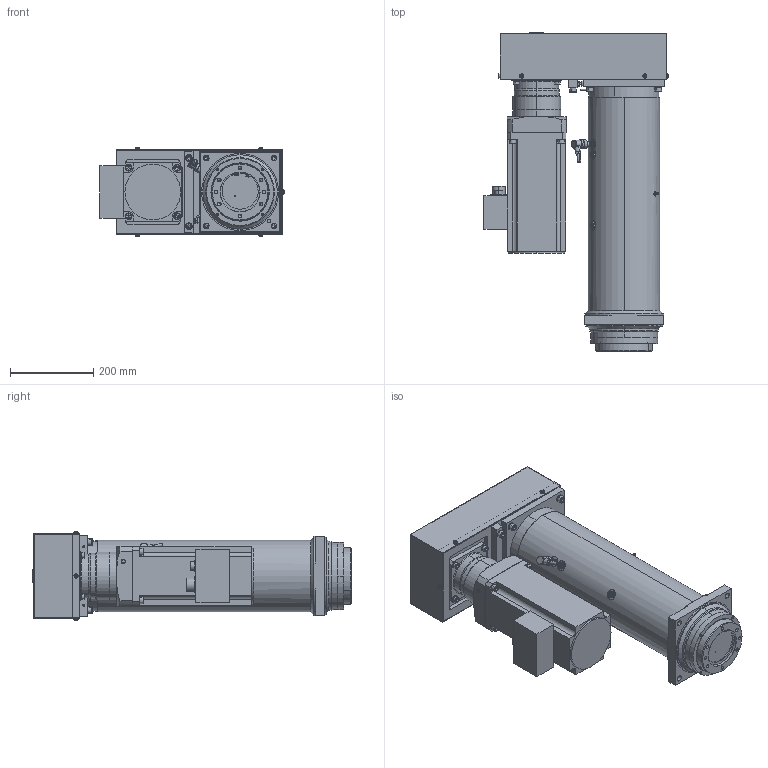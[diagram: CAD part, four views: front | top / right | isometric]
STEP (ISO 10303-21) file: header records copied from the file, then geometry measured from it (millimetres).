
FILE_DESCRIPTION (( 'STEP AP203' ), '1' );
FILE_NAME ('374040.STEP', '2018-10-17T11:41:33', ( '' ), ( '' ), 'SwSTEP 2.0', 'SolidWorks 2016', '' );
FILE_SCHEMA (( 'CONFIG_CONTROL_DESIGN' ));
Length unit declared in the file: millimetre
Products named in the file (1): 374040
Bounding box: 442.37 x 766 x 211.5 mm (x, y, z)
Volume: 15504589.5 mm3; surface area: 2381138.1 mm2
Topology: 58 solids, 59 shells, 1857 faces, 4296 edges, 2603 vertices
Faces by surface type: plane 762, cylinder 707, cone 312, torus 70, bspline 6
Entity records: 57490 total; most frequent: CARTESIAN_POINT 14815, DIRECTION 9417, ORIENTED_EDGE 8280, EDGE_CURVE 4140, AXIS2_PLACEMENT_3D 3659, VERTEX_POINT 2603, EDGE_LOOP 2251, VECTOR 2099
